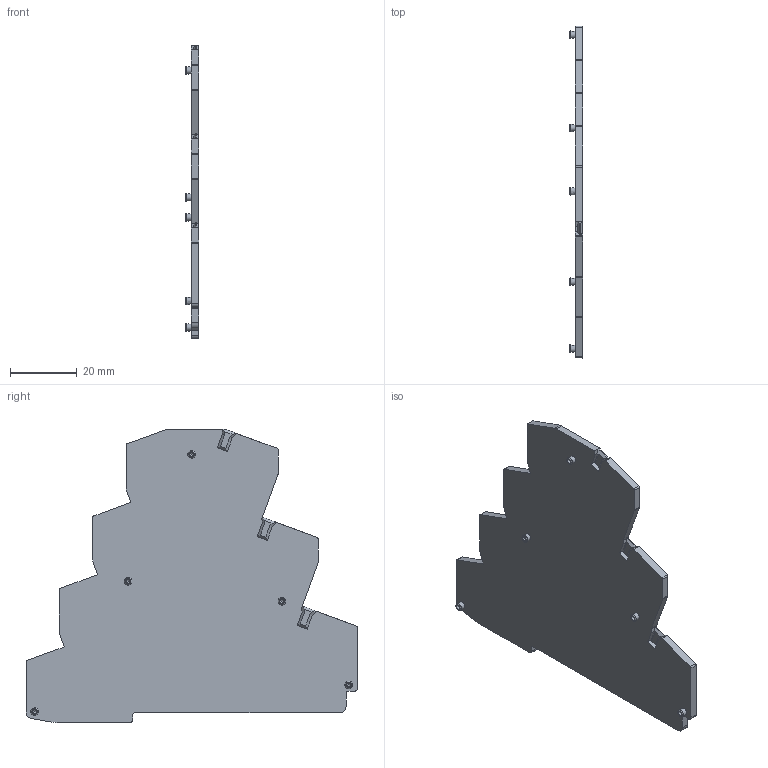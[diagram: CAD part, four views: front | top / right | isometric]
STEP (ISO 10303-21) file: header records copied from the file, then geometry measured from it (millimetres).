
FILE_DESCRIPTION( ('This file contains a STEP AP42 implementation' ,'as created by ZW3D STEP Interface translator.') ,'2;1' );
FILE_NAME( 'D-VPR-2.5-PE-3L傷啣.stp' ,'24 726. 9 846', (''), ('ZWCAD Software Co.'), 'Version 1.0', 'ZW3D to STEP translator', '' );
FILE_SCHEMA(('AUTOMOTIVE_DESIGN { 1 0 10303 214 1 1 1 1 }'));
Length unit declared in the file: millimetre
Products named in the file (2): 0; RPV 2.5-PE-3L_錨璃47_1
Bounding box: 4 x 99.4 x 87.8 mm (x, y, z)
Volume: 13012.7 mm3; surface area: 12828.1 mm2
Topology: 1 solids, 1 shells, 162 faces, 490 edges, 379 vertices
Faces by surface type: plane 116, cylinder 26, cone 10, torus 5, bspline 5
Entity records: 5732 total; most frequent: CARTESIAN_POINT 1084, DIRECTION 912, ORIENTED_EDGE 902, EDGE_CURVE 451, VECTOR 384, LINE 384, VERTEX_POINT 301, AXIS2_PLACEMENT_3D 264
